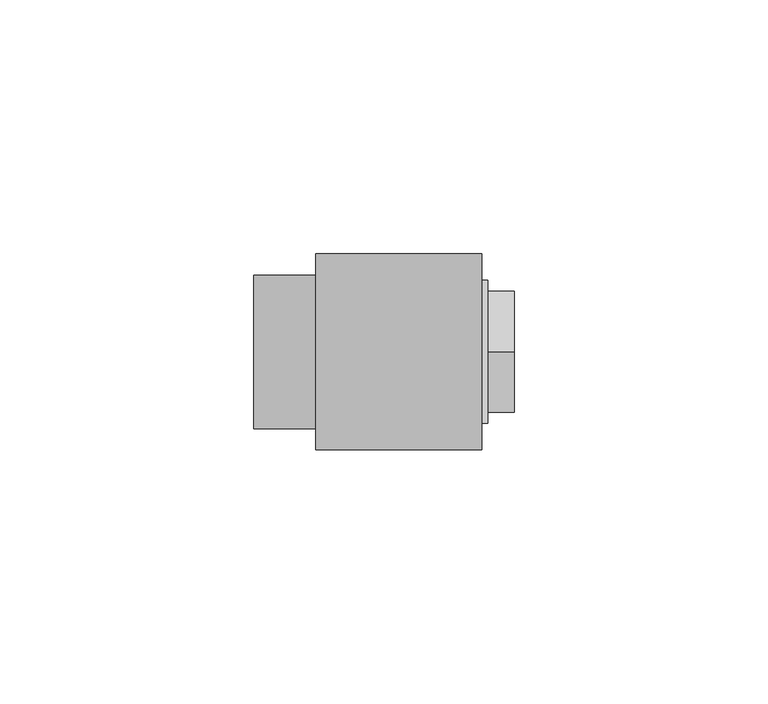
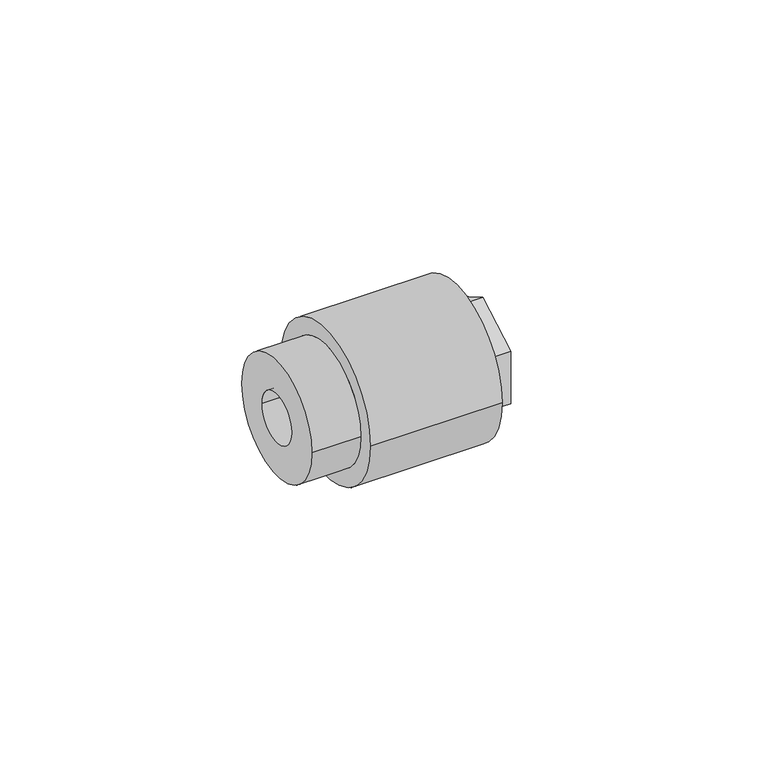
"""IFC4 building model written with IfcOpenShell, lengths in millimetres: pipe fitting geometry, Aquatherm - Fusion Outlet Transition Female : POTABLE BRASS - HEX."""

from ifc_helpers import new_model, si_unit, frame, origin, place, context, project, spatial, polyline, circle_curve, source, transform, mapped, element, save
from ifc_brep_helpers import plane_surface, cylinder_surface, revolved_surface, advanced_brep


def pipe_fitting_8420f8e5(model_context):
    return source(origin(), model_context, "Body", "AdvancedBrep", [
        advanced_brep(
        [(26.416, 9.525, 0.0), (26.416, -9.525, 0.0), (36.5363125, -9.525, 0.0), (36.5363125, 9.525, 0.0), (26.416, 10.31875, 0.0), (26.416, -10.31875, 0.0), (23.241, 10.31875, 0.0), (23.241, -10.31875, 0.0), (23.241, 6.35, 0.0), (23.241, -6.35, 0.0), (20.066, 6.35, 0.0), (20.066, -6.35, 0.0), (20.066, 15.113, 0.0), (20.066, -15.113, 0.0), (32.766, 15.113, 0.0), (32.766, -15.113, 0.0), (39.116, 10.31875, 0.0), (39.116, -10.31875, 0.0), (39.116, -11.938, 0.0), (39.116, -11.938, -6.8924075), (39.116, 0.0, -13.784815), (39.116, 11.938, -6.8924075), (39.116, 11.938, 0.0), (39.116, 11.938, 6.8924075), (39.116, 0.0, 13.784815), (39.116, -11.938, 6.8924075), (32.766, 14.097, 0.0), (32.766, -14.097, 0.0), (33.956625, 14.097, 0.0), (33.956625, -14.097, 0.0), (33.956625, 0.0, -13.784815), (33.956625, -11.938, -6.8924075), (33.956625, -11.938, 6.8924075), (33.956625, 0.0, 13.784815), (33.956625, 11.938, 6.8924075), (33.956625, 11.938, -6.8924075)],
        [
            (0, 1, circle_curve(frame((26.416, 0.0, 0.0), z_axis=(-1.0, 0.0, 0.0), x_axis=(0.0, -1.0, 0.0)), 9.525)),
            (1, 2),
            (2, 3, circle_curve(frame((36.5363125, 0.0, 0.0), z_axis=(1.0, 0.0, 0.0), x_axis=(0.0, -1.0, 0.0)), 9.525)),
            (3, 0),
            (1, 0, circle_curve(frame((26.416, 0.0, 0.0), z_axis=(-1.0, 0.0, 0.0), x_axis=(0.0, -1.0, 0.0)), 9.525)),
            (3, 2, circle_curve(frame((36.5363125, 0.0, 0.0), z_axis=(1.0, 0.0, 0.0), x_axis=(0.0, -1.0, 0.0)), 9.525)),
            (0, 4),
            (4, 5, circle_curve(frame((26.416, 0.0, 0.0), z_axis=(-1.0, 0.0, 0.0), x_axis=(0.0, -1.0, 0.0)), 10.31875)),
            (5, 1),
            (5, 4, circle_curve(frame((26.416, 0.0, 0.0), z_axis=(-1.0, 0.0, 0.0), x_axis=(0.0, -1.0, 0.0)), 10.31875)),
            (4, 6),
            (6, 7, circle_curve(frame((23.241, 0.0, 0.0), z_axis=(-1.0, 0.0, 0.0), x_axis=(0.0, -1.0, 0.0)), 10.31875)),
            (7, 5),
            (7, 6, circle_curve(frame((23.241, 0.0, 0.0), z_axis=(-1.0, 0.0, 0.0), x_axis=(0.0, -1.0, 0.0)), 10.31875)),
            (6, 8),
            (8, 9, circle_curve(frame((23.241, 0.0, 0.0), z_axis=(-1.0, 0.0, 0.0), x_axis=(0.0, -1.0, 0.0)), 6.35)),
            (9, 7),
            (9, 8, circle_curve(frame((23.241, 0.0, 0.0), z_axis=(-1.0, 0.0, 0.0), x_axis=(0.0, -1.0, 0.0)), 6.35)),
            (8, 10),
            (10, 11, circle_curve(frame((20.066, 0.0, 0.0), z_axis=(-1.0, 0.0, 0.0), x_axis=(0.0, -1.0, 0.0)), 6.35)),
            (11, 9),
            (11, 10, circle_curve(frame((20.066, 0.0, 0.0), z_axis=(-1.0, 0.0, 0.0), x_axis=(0.0, -1.0, 0.0)), 6.35)),
            (10, 12),
            (12, 13, circle_curve(frame((20.066, 0.0, 0.0), z_axis=(-1.0, 0.0, 0.0), x_axis=(0.0, -1.0, 0.0)), 15.113)),
            (13, 11),
            (13, 12, circle_curve(frame((20.066, 0.0, 0.0), z_axis=(-1.0, 0.0, 0.0), x_axis=(0.0, -1.0, 0.0)), 15.113)),
            (12, 14),
            (14, 15, circle_curve(frame((32.766, 0.0, 0.0), z_axis=(-1.0, 0.0, 0.0), x_axis=(0.0, -1.0, 0.0)), 15.113)),
            (15, 13),
            (15, 14, circle_curve(frame((32.766, 0.0, 0.0), z_axis=(-1.0, 0.0, 0.0), x_axis=(0.0, -1.0, 0.0)), 15.113)),
            (16, 17, circle_curve(frame((39.116, 0.0, 0.0), z_axis=(-1.0, 0.0, 0.0), x_axis=(0.0, -1.0, 0.0)), 10.31875)),
            (17, 18),
            (18, 19),
            (19, 20),
            (20, 21),
            (21, 22),
            (22, 16),
            (17, 16, circle_curve(frame((39.116, 0.0, 0.0), z_axis=(-1.0, 0.0, 0.0), x_axis=(0.0, -1.0, 0.0)), 10.31875)),
            (22, 23),
            (23, 24),
            (24, 25),
            (25, 18),
            (2, 17),
            (16, 3),
            (14, 26),
            (26, 27, circle_curve(frame((32.766, 0.0, 0.0), z_axis=(-1.0, 0.0, 0.0), x_axis=(0.0, -1.0, 0.0)), 14.097)),
            (27, 15),
            (27, 26, circle_curve(frame((32.766, 0.0, 0.0), z_axis=(-1.0, 0.0, 0.0), x_axis=(0.0, -1.0, 0.0)), 14.097)),
            (26, 28),
            (28, 29, circle_curve(frame((33.956625, 0.0, 0.0), z_axis=(-1.0, 0.0, 0.0), x_axis=(0.0, -1.0, 0.0)), 14.097)),
            (29, 27),
            (29, 28, circle_curve(frame((33.956625, 0.0, 0.0), z_axis=(-1.0, 0.0, 0.0), x_axis=(0.0, -1.0, 0.0)), 14.097)),
            (30, 31),
            (31, 32),
            (32, 33),
            (33, 34),
            (34, 35),
            (35, 30),
            (35, 21),
            (20, 30),
            (34, 23),
            (33, 24),
            (32, 25),
            (31, 19),
        ],
        [
            revolved_surface(polyline([(36.5363125, -9.525, 0.0), (26.416, -9.525, 0.0)]), (40.9492251, 0.0, 0.0), (1.0, 0.0, 0.0)),
            plane_surface(frame((26.416, 0.0, 0.0), z_axis=(-1.0, 0.0, 0.0), x_axis=(0.0, -1.0, 0.0))),
            revolved_surface(polyline([(26.416, -10.31875, 0.0), (23.241, -10.31875, 0.0)]), (40.9492251, 0.0, 0.0), (1.0, 0.0, 0.0)),
            plane_surface(frame((23.241, 0.0, 0.0), z_axis=(1.0, 0.0, 0.0), x_axis=(0.0, -1.0, 0.0))),
            revolved_surface(polyline([(23.241, -6.35, 0.0), (20.066, -6.35, 0.0)]), (40.9492251, 0.0, 0.0), (1.0, 0.0, 0.0)),
            plane_surface(frame((20.066, 0.0, 0.0), z_axis=(-1.0, 0.0, 0.0), x_axis=(0.0, -1.0, 0.0))),
            cylinder_surface(frame((40.9492251, 0.0, 0.0), z_axis=(1.0, 0.0, 0.0), x_axis=(0.0, -1.0, 0.0)), 15.113),
            plane_surface(frame((39.116, 0.0, 0.0), z_axis=(1.0, 0.0, 0.0), x_axis=(0.0, -1.0, 0.0))),
            revolved_surface(polyline([(39.116, -10.31875, 0.0), (36.5363125, -9.525, 0.0)]), (40.9492251, 0.0, 0.0), (1.0, 0.0, 0.0)),
            plane_surface(frame((32.766, 0.0, 0.0), z_axis=(1.0, 0.0, 0.0), x_axis=(0.0, -1.0, 0.0))),
            cylinder_surface(frame((40.9492251, 0.0, 0.0), z_axis=(1.0, 0.0, 0.0), x_axis=(0.0, -1.0, 0.0)), 14.097),
            plane_surface(frame((33.956625, 11.938, -6.8924075), z_axis=(1.0, 0.0, 0.0), x_axis=(0.0, 0.8660254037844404, 0.49999999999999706))),
            plane_surface(frame((33.956625, 0.0, -13.784815), z_axis=(0.0, 0.49999999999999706, -0.8660254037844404), x_axis=(1.0, 0.0, 0.0))),
            plane_surface(frame((33.956625, 11.938, -6.8924075), z_axis=(0.0, 1.0, 0.0), x_axis=(1.0, 0.0, 0.0))),
            plane_surface(frame((33.956625, 11.938, 6.8924075), z_axis=(0.0, 0.5000000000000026, 0.8660254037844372), x_axis=(1.0, 0.0, 0.0))),
            plane_surface(frame((33.956625, 0.0, 13.784815), z_axis=(0.0, -0.4999999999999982, 0.8660254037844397), x_axis=(1.0, 0.0, 0.0))),
            plane_surface(frame((33.956625, -11.938, 6.8924075), z_axis=(0.0, -1.0, 0.0), x_axis=(1.0, 0.0, 0.0))),
            plane_surface(frame((33.956625, -11.938, -6.8924075), z_axis=(0.0, -0.5000000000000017, -0.8660254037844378), x_axis=(1.0, 0.0, 0.0))),
        ],
        [
            (0, [[1, 2, 3, 4]]),
            (0, [[-2, 5, -4, 6]]),
            (1, [[-1, 7, 8, 9]]),
            (1, [[-5, -9, 10, -7]]),
            (2, [[-8, 11, 12, 13]]),
            (2, [[-10, -13, 14, -11]]),
            (3, [[-12, 15, 16, 17]]),
            (3, [[-14, -17, 18, -15]]),
            (4, [[-16, 19, 20, 21]]),
            (4, [[-18, -21, 22, -19]]),
            (5, [[-20, 23, 24, 25]]),
            (5, [[-22, -25, 26, -23]]),
            (6, [[-24, 27, 28, 29]]),
            (6, [[-26, -29, 30, -27]]),
            (7, [[31, 32, 33, 34, 35, 36, 37]]),
            (7, [[38, -37, 39, 40, 41, 42, -32]]),
            (8, [[-3, 43, -31, 44]]),
            (8, [[-6, -44, -38, -43]]),
            (9, [[-28, 45, 46, 47]]),
            (9, [[-30, -47, 48, -45]]),
            (10, [[-46, 49, 50, 51]]),
            (10, [[-48, -51, 52, -49]]),
            (11, [[-50, -52], [53, 54, 55, 56, 57, 58]]),
            (12, [[-58, 59, -35, 60]]),
            (13, [[-57, 61, -39, -36, -59]]),
            (14, [[-56, 62, -40, -61]]),
            (15, [[-55, 63, -41, -62]]),
            (16, [[-54, 64, -33, -42, -63]]),
            (17, [[-53, -60, -34, -64]]),
        ],
    ),
        advanced_brep(
        [(-12.1508108, 15.113, 0.0), (-12.1508108, -15.113, 0.0), (-12.1508108, 6.35, 0.0), (-12.1508108, -6.35, 0.0), (20.066, 15.113, 0.0), (20.066, -15.113, 0.0), (20.066, 6.35, 0.0), (20.066, -6.35, 0.0), (0.0, 15.113, 0.0), (0.0, -15.113, 0.0), (32.766, 19.304, 0.0), (32.766, -19.304, 0.0), (32.766, 15.113, 0.0), (32.766, -15.113, 0.0), (0.0, 19.304, 0.0), (0.0, -19.304, 0.0)],
        [
            (0, 1, circle_curve(frame((-12.1508108, 0.0, 0.0), z_axis=(-1.0, 0.0, 0.0), x_axis=(0.0, -1.0, 0.0)), 15.113)),
            (1, 0, circle_curve(frame((-12.1508108, 0.0, 0.0), z_axis=(-1.0, 0.0, 0.0), x_axis=(0.0, -1.0, 0.0)), 15.113)),
            (2, 3, circle_curve(frame((-12.1508108, 0.0, 0.0), z_axis=(1.0, 0.0, 0.0), x_axis=(0.0, -1.0, 0.0)), 6.35)),
            (3, 2, circle_curve(frame((-12.1508108, 0.0, 0.0), z_axis=(1.0, 0.0, 0.0), x_axis=(0.0, -1.0, 0.0)), 6.35)),
            (4, 5, circle_curve(frame((20.066, 0.0, 0.0), z_axis=(1.0, 0.0, 0.0), x_axis=(0.0, -1.0, 0.0)), 15.113)),
            (5, 4, circle_curve(frame((20.066, 0.0, 0.0), z_axis=(1.0, 0.0, 0.0), x_axis=(0.0, -1.0, 0.0)), 15.113)),
            (6, 7, circle_curve(frame((20.066, 0.0, 0.0), z_axis=(-1.0, 0.0, 0.0), x_axis=(0.0, -1.0, 0.0)), 6.35)),
            (7, 6, circle_curve(frame((20.066, 0.0, 0.0), z_axis=(-1.0, 0.0, 0.0), x_axis=(0.0, -1.0, 0.0)), 6.35)),
            (2, 6),
            (7, 3),
            (0, 8),
            (8, 9, circle_curve(frame((0.0, 0.0, 0.0), z_axis=(-1.0, 0.0, 0.0), x_axis=(0.0, -1.0, 0.0)), 15.113)),
            (9, 1),
            (9, 8, circle_curve(frame((0.0, 0.0, 0.0), z_axis=(-1.0, 0.0, 0.0), x_axis=(0.0, -1.0, 0.0)), 15.113)),
            (10, 11, circle_curve(frame((32.766, 0.0, 0.0), z_axis=(1.0, 0.0, 0.0), x_axis=(0.0, -1.0, 0.0)), 19.304)),
            (11, 10, circle_curve(frame((32.766, 0.0, 0.0), z_axis=(1.0, 0.0, 0.0), x_axis=(0.0, -1.0, 0.0)), 19.304)),
            (12, 13, circle_curve(frame((32.766, 0.0, 0.0), z_axis=(-1.0, 0.0, 0.0), x_axis=(0.0, -1.0, 0.0)), 15.113)),
            (13, 12, circle_curve(frame((32.766, 0.0, 0.0), z_axis=(-1.0, 0.0, 0.0), x_axis=(0.0, -1.0, 0.0)), 15.113)),
            (14, 15, circle_curve(frame((0.0, 0.0, 0.0), z_axis=(-1.0, 0.0, 0.0), x_axis=(0.0, -1.0, 0.0)), 19.304)),
            (15, 14, circle_curve(frame((0.0, 0.0, 0.0), z_axis=(-1.0, 0.0, 0.0), x_axis=(0.0, -1.0, 0.0)), 19.304)),
            (13, 5),
            (4, 12),
            (11, 15),
            (14, 10),
        ],
        [
            plane_surface(frame((-12.1508108, -6.35, 0.0), z_axis=(-1.0, 0.0, 0.0), x_axis=(0.0, 0.0, -1.0))),
            plane_surface(frame((20.066, -6.35, 0.0), z_axis=(1.0, 0.0, 0.0), x_axis=(0.0, 0.0, 1.0))),
            revolved_surface(polyline([(20.066, -6.35, 0.0), (-12.150810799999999, -6.35, 0.0)]), (20.066, 0.0, 0.0), (1.0, 0.0, 0.0)),
            cylinder_surface(frame((0.0, 0.0, 0.0), z_axis=(-1.0, 0.0, 0.0), x_axis=(0.0, -1.0, 0.0)), 15.113),
            plane_surface(frame((32.766, -15.113, 0.0), z_axis=(1.0, 0.0, 0.0), x_axis=(0.0, 0.0, 1.0))),
            plane_surface(frame((0.0, -15.113, 0.0), z_axis=(-1.0, 0.0, 0.0), x_axis=(0.0, 0.0, -1.0))),
            revolved_surface(polyline([(32.766, -15.113, 0.0), (20.066, -15.113, 0.0)]), (32.766, 0.0, 0.0), (1.0, 0.0, 0.0)),
            cylinder_surface(frame((0.0, 0.0, 0.0), z_axis=(-1.0, 0.0, 0.0), x_axis=(0.0, -1.0, 0.0)), 19.304),
        ],
        [
            (0, [[1, 2], [3, 4]]),
            (1, [[5, 6], [7, 8]]),
            (2, [[-3, 9, -8, 10]]),
            (2, [[-4, -10, -7, -9]]),
            (3, [[-1, 11, 12, 13]]),
            (3, [[-2, -13, 14, -11]]),
            (4, [[15, 16], [17, 18]]),
            (5, [[19, 20], [-12, -14]]),
            (6, [[-18, 21, -5, 22]]),
            (6, [[-17, -22, -6, -21]]),
            (7, [[-16, 23, -19, 24]]),
            (7, [[-15, -24, -20, -23]]),
        ],
    ),
    ])


if __name__ == "__main__":
    model = new_model("IFC4")
    model_context = context("Model", 3, world=origin())
    ifc_project = project(units=[si_unit("LENGTHUNIT", "METRE", prefix="MILLI")], contexts=[model_context])
    site = spatial("IfcSite", under=ifc_project)
    building = spatial("IfcBuilding", under=site)
    placement = place(None, origin())
    pipe_fitting_shape = pipe_fitting_8420f8e5(model_context)
    element("IfcPipeFitting", 1, ObjectType="Aquatherm - Fusion Outlet Transition Female : POTABLE BRASS - HEX", at=placement, inside=building, context=model_context, shape_type="MappedRepresentation", body=[
        mapped(pipe_fitting_shape, transform((0.0, 0.0, 0.0), x_axis=(1.0, 0.0, 0.0), y_axis=(0.0, 1.0, 0.0), z_axis=(0.0, 0.0, 1.0))),
    ])
    save(model, "model.ifc")
